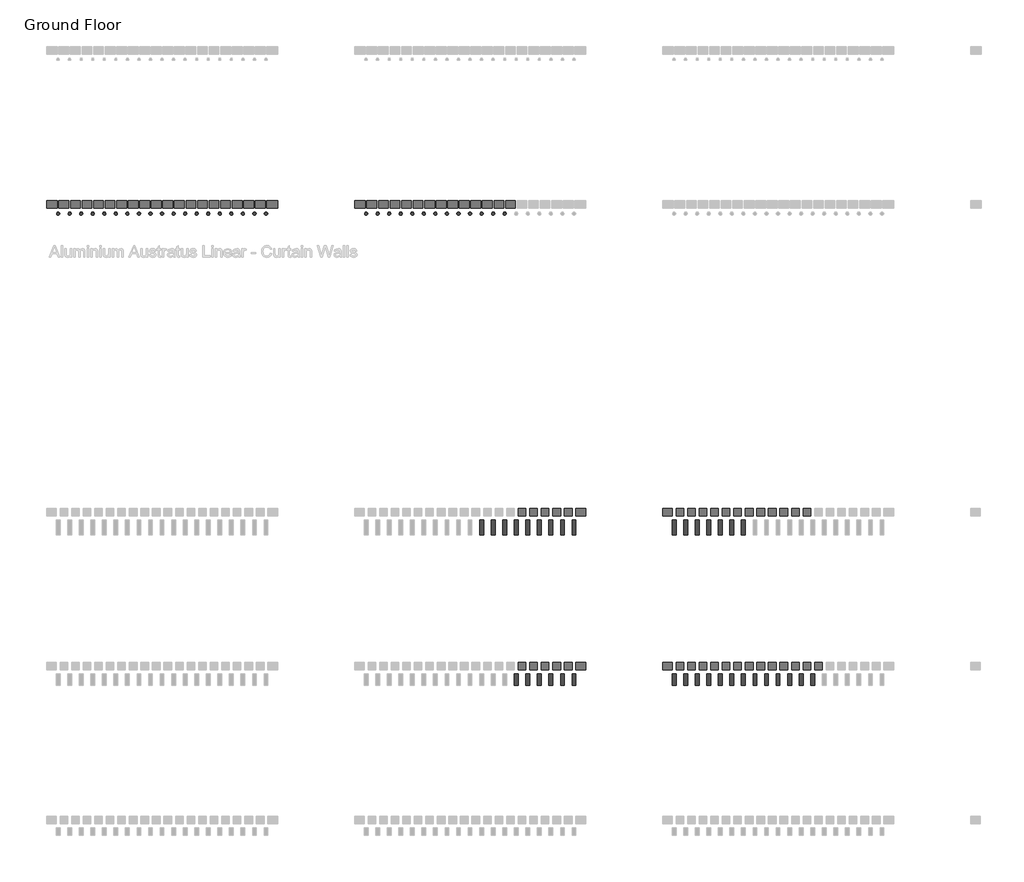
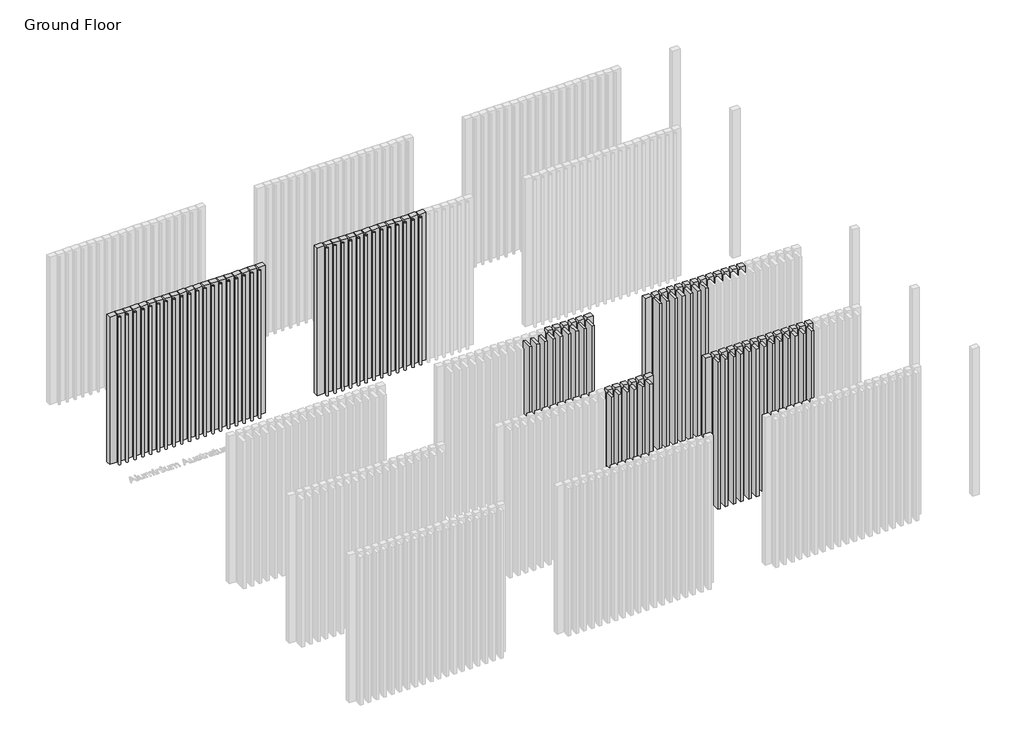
# One storey, part 16 of 350: 73 plates, 67 members.
"""IFC4 building model written with IfcOpenShell, lengths in millimetres."""

from ifc_helpers import new_model, si_unit, origin, place, context, project, spatial, transform, mapped, element, save
from components import rectangular_mullion_d8d867ca, rectangular_mullion_26362614, rectangular_mullion_afeb8ef8, empty_system_panel_empty_a8601f27, empty_system_panel_empty_23ba90fe, empty_system_panel_empty_02e968fa, empty_system_panel_empty_b0a57c37, empty_system_panel_empty_a9f5b765, empty_system_panel_empty_5da2f048

model = new_model("IFC4")

# Units and contexts
model_context = context("Model", 3, world=origin())
ifc_project = project(units=[si_unit("LENGTHUNIT", "METRE", prefix="MILLI")], contexts=[model_context])

# Site, building, storey
site = spatial("IfcSite", under=ifc_project)
building = spatial("IfcBuilding", under=site)
storey = spatial("IfcBuildingStorey", under=building, Name="Ground Floor", Elevation=0.0)

# Members
placement = place(None, origin())
rectangular_mullion_shape = rectangular_mullion_d8d867ca(model_context)
element("IfcMember", 1, ObjectType="Rectangular Mullion : Batten_Aluminium_Modinex_Austratus_Linear_Dowel_AfricanEbony", at=placement, inside=storey, context=model_context, shape_type="MappedRepresentation", body=[
    mapped(rectangular_mullion_shape, transform((2066.4361642, 30968.2978302, 0.0), x_axis=(1.0, 0.0, 0.0), y_axis=(0.0, -1.0, 0.0), z_axis=(0.0, 0.0, -1.0))),
])
element("IfcMember", 2, ObjectType="Rectangular Mullion : Batten_Aluminium_Modinex_Austratus_Linear_Dowel_AfricanEbony", at=placement, inside=storey, context=model_context, shape_type="MappedRepresentation", body=[
    mapped(rectangular_mullion_shape, transform((2216.4361642, 30968.2978302, 0.0), x_axis=(1.0, 0.0, 0.0), y_axis=(0.0, -1.0, 0.0), z_axis=(0.0, 0.0, -1.0))),
])
element("IfcMember", 3, ObjectType="Rectangular Mullion : Batten_Aluminium_Modinex_Austratus_Linear_Dowel_AfricanEbony", at=placement, inside=storey, context=model_context, shape_type="MappedRepresentation", body=[
    mapped(rectangular_mullion_shape, transform((2366.4361642, 30968.2978302, 0.0), x_axis=(1.0, 0.0, 0.0), y_axis=(0.0, -1.0, 0.0), z_axis=(0.0, 0.0, -1.0))),
])
element("IfcMember", 4, ObjectType="Rectangular Mullion : Batten_Aluminium_Modinex_Austratus_Linear_Dowel_AfricanEbony", at=placement, inside=storey, context=model_context, shape_type="MappedRepresentation", body=[
    mapped(rectangular_mullion_shape, transform((2516.4361642, 30968.2978302, 0.0), x_axis=(1.0, 0.0, 0.0), y_axis=(0.0, -1.0, 0.0), z_axis=(0.0, 0.0, -1.0))),
])
element("IfcMember", 5, ObjectType="Rectangular Mullion : Batten_Aluminium_Modinex_Austratus_Linear_Dowel_AfricanEbony", at=placement, inside=storey, context=model_context, shape_type="MappedRepresentation", body=[
    mapped(rectangular_mullion_shape, transform((2666.4361642, 30968.2978302, 0.0), x_axis=(1.0, 0.0, 0.0), y_axis=(0.0, -1.0, 0.0), z_axis=(0.0, 0.0, -1.0))),
])
element("IfcMember", 6, ObjectType="Rectangular Mullion : Batten_Aluminium_Modinex_Austratus_Linear_Dowel_AfricanEbony", at=placement, inside=storey, context=model_context, shape_type="MappedRepresentation", body=[
    mapped(rectangular_mullion_shape, transform((2816.4361642, 30968.2978302, 0.0), x_axis=(1.0, 0.0, 0.0), y_axis=(0.0, -1.0, 0.0), z_axis=(0.0, 0.0, -1.0))),
])
element("IfcMember", 7, ObjectType="Rectangular Mullion : Batten_Aluminium_Modinex_Austratus_Linear_Dowel_AfricanEbony", at=placement, inside=storey, context=model_context, shape_type="MappedRepresentation", body=[
    mapped(rectangular_mullion_shape, transform((2966.4361642, 30968.2978302, 0.0), x_axis=(1.0, 0.0, 0.0), y_axis=(0.0, -1.0, 0.0), z_axis=(0.0, 0.0, -1.0))),
])
element("IfcMember", 8, ObjectType="Rectangular Mullion : Batten_Aluminium_Modinex_Austratus_Linear_Dowel_AfricanEbony", at=placement, inside=storey, context=model_context, shape_type="MappedRepresentation", body=[
    mapped(rectangular_mullion_shape, transform((3116.4361642, 30968.2978302, 0.0), x_axis=(1.0, 0.0, 0.0), y_axis=(0.0, -1.0, 0.0), z_axis=(0.0, 0.0, -1.0))),
])
element("IfcMember", 9, ObjectType="Rectangular Mullion : Batten_Aluminium_Modinex_Austratus_Linear_Dowel_AfricanEbony", at=placement, inside=storey, context=model_context, shape_type="MappedRepresentation", body=[
    mapped(rectangular_mullion_shape, transform((3266.4361642, 30968.2978302, 0.0), x_axis=(1.0, 0.0, 0.0), y_axis=(0.0, -1.0, 0.0), z_axis=(0.0, 0.0, -1.0))),
])
element("IfcMember", 10, ObjectType="Rectangular Mullion : Batten_Aluminium_Modinex_Austratus_Linear_Dowel_AfricanEbony", at=placement, inside=storey, context=model_context, shape_type="MappedRepresentation", body=[
    mapped(rectangular_mullion_shape, transform((3416.4361642, 30968.2978302, 0.0), x_axis=(1.0, 0.0, 0.0), y_axis=(0.0, -1.0, 0.0), z_axis=(0.0, 0.0, -1.0))),
])
element("IfcMember", 11, ObjectType="Rectangular Mullion : Batten_Aluminium_Modinex_Austratus_Linear_Dowel_AfricanEbony", at=placement, inside=storey, context=model_context, shape_type="MappedRepresentation", body=[
    mapped(rectangular_mullion_shape, transform((3566.4361642, 30968.2978302, 0.0), x_axis=(1.0, 0.0, 0.0), y_axis=(0.0, -1.0, 0.0), z_axis=(0.0, 0.0, -1.0))),
])
element("IfcMember", 12, ObjectType="Rectangular Mullion : Batten_Aluminium_Modinex_Austratus_Linear_Dowel_AfricanEbony", at=placement, inside=storey, context=model_context, shape_type="MappedRepresentation", body=[
    mapped(rectangular_mullion_shape, transform((3716.4361642, 30968.2978302, 0.0), x_axis=(1.0, 0.0, 0.0), y_axis=(0.0, -1.0, 0.0), z_axis=(0.0, 0.0, -1.0))),
])
element("IfcMember", 13, ObjectType="Rectangular Mullion : Batten_Aluminium_Modinex_Austratus_Linear_Dowel_AfricanEbony", at=placement, inside=storey, context=model_context, shape_type="MappedRepresentation", body=[
    mapped(rectangular_mullion_shape, transform((3866.4361642, 30968.2978302, 0.0), x_axis=(1.0, 0.0, 0.0), y_axis=(0.0, -1.0, 0.0), z_axis=(0.0, 0.0, -1.0))),
])
element("IfcMember", 14, ObjectType="Rectangular Mullion : Batten_Aluminium_Modinex_Austratus_Linear_Dowel_AfricanEbony", at=placement, inside=storey, context=model_context, shape_type="MappedRepresentation", body=[
    mapped(rectangular_mullion_shape, transform((4016.4361642, 30968.2978302, 0.0), x_axis=(1.0, 0.0, 0.0), y_axis=(0.0, -1.0, 0.0), z_axis=(0.0, 0.0, -1.0))),
])
element("IfcMember", 15, ObjectType="Rectangular Mullion : Batten_Aluminium_Modinex_Austratus_Linear_Dowel_AfricanEbony", at=placement, inside=storey, context=model_context, shape_type="MappedRepresentation", body=[
    mapped(rectangular_mullion_shape, transform((4166.4361642, 30968.2978302, 0.0), x_axis=(1.0, 0.0, 0.0), y_axis=(0.0, -1.0, 0.0), z_axis=(0.0, 0.0, -1.0))),
])
element("IfcMember", 16, ObjectType="Rectangular Mullion : Batten_Aluminium_Modinex_Austratus_Linear_Dowel_AfricanEbony", at=placement, inside=storey, context=model_context, shape_type="MappedRepresentation", body=[
    mapped(rectangular_mullion_shape, transform((4316.4361642, 30968.2978302, 0.0), x_axis=(1.0, 0.0, 0.0), y_axis=(0.0, -1.0, 0.0), z_axis=(0.0, 0.0, -1.0))),
])
element("IfcMember", 17, ObjectType="Rectangular Mullion : Batten_Aluminium_Modinex_Austratus_Linear_Dowel_AfricanEbony", at=placement, inside=storey, context=model_context, shape_type="MappedRepresentation", body=[
    mapped(rectangular_mullion_shape, transform((4466.4361642, 30968.2978302, 0.0), x_axis=(1.0, 0.0, 0.0), y_axis=(0.0, -1.0, 0.0), z_axis=(0.0, 0.0, -1.0))),
])
element("IfcMember", 18, ObjectType="Rectangular Mullion : Batten_Aluminium_Modinex_Austratus_Linear_Dowel_AfricanEbony", at=placement, inside=storey, context=model_context, shape_type="MappedRepresentation", body=[
    mapped(rectangular_mullion_shape, transform((4616.4361642, 30968.2978302, 0.0), x_axis=(1.0, 0.0, 0.0), y_axis=(0.0, -1.0, 0.0), z_axis=(0.0, 0.0, -1.0))),
])
element("IfcMember", 19, ObjectType="Rectangular Mullion : Batten_Aluminium_Modinex_Austratus_Linear_Dowel_AfricanEbony", at=placement, inside=storey, context=model_context, shape_type="MappedRepresentation", body=[
    mapped(rectangular_mullion_shape, transform((4766.4361642, 30968.2978302, 0.0), x_axis=(1.0, 0.0, 0.0), y_axis=(0.0, -1.0, 0.0), z_axis=(0.0, 0.0, -1.0))),
])
rectangular_mullion_2_shape = rectangular_mullion_26362614(model_context)
element("IfcMember", 20, ObjectType="Rectangular Mullion : Batten_Aluminium_Modinex_AluBatten_50x150_Cedar", at=placement, inside=storey, context=model_context, shape_type="MappedRepresentation", body=[
    mapped(rectangular_mullion_2_shape, transform((8016.4361642, 24968.2978302, 0.0), x_axis=(1.0, 0.0, 0.0), y_axis=(0.0, -1.0, 0.0), z_axis=(0.0, 0.0, -1.0))),
])
element("IfcMember", 21, ObjectType="Rectangular Mullion : Batten_Aluminium_Modinex_AluBatten_50x150_Cedar", at=placement, inside=storey, context=model_context, shape_type="MappedRepresentation", body=[
    mapped(rectangular_mullion_2_shape, transform((8166.4361642, 24968.2978302, 0.0), x_axis=(1.0, 0.0, 0.0), y_axis=(0.0, -1.0, 0.0), z_axis=(0.0, 0.0, -1.0))),
])
element("IfcMember", 22, ObjectType="Rectangular Mullion : Batten_Aluminium_Modinex_AluBatten_50x150_Cedar", at=placement, inside=storey, context=model_context, shape_type="MappedRepresentation", body=[
    mapped(rectangular_mullion_2_shape, transform((8316.4361642, 24968.2978302, 0.0), x_axis=(1.0, 0.0, 0.0), y_axis=(0.0, -1.0, 0.0), z_axis=(0.0, 0.0, -1.0))),
])
element("IfcMember", 23, ObjectType="Rectangular Mullion : Batten_Aluminium_Modinex_AluBatten_50x150_Cedar", at=placement, inside=storey, context=model_context, shape_type="MappedRepresentation", body=[
    mapped(rectangular_mullion_2_shape, transform((8466.4361642, 24968.2978302, 0.0), x_axis=(1.0, 0.0, 0.0), y_axis=(0.0, -1.0, 0.0), z_axis=(0.0, 0.0, -1.0))),
])
element("IfcMember", 24, ObjectType="Rectangular Mullion : Batten_Aluminium_Modinex_AluBatten_50x150_Cedar", at=placement, inside=storey, context=model_context, shape_type="MappedRepresentation", body=[
    mapped(rectangular_mullion_2_shape, transform((8616.4361642, 24968.2978302, 0.0), x_axis=(1.0, 0.0, 0.0), y_axis=(0.0, -1.0, 0.0), z_axis=(0.0, 0.0, -1.0))),
])
element("IfcMember", 25, ObjectType="Rectangular Mullion : Batten_Aluminium_Modinex_AluBatten_50x150_Cedar", at=placement, inside=storey, context=model_context, shape_type="MappedRepresentation", body=[
    mapped(rectangular_mullion_2_shape, transform((8766.4361642, 24968.2978302, 0.0), x_axis=(1.0, 0.0, 0.0), y_axis=(0.0, -1.0, 0.0), z_axis=(0.0, 0.0, -1.0))),
])
element("IfcMember", 26, ObjectType="Rectangular Mullion : Batten_Aluminium_Modinex_AluBatten_50x150_EnglishOak", at=placement, inside=storey, context=model_context, shape_type="MappedRepresentation", body=[
    mapped(rectangular_mullion_2_shape, transform((10066.4361642, 24968.2978302, 0.0), x_axis=(1.0, 0.0, 0.0), y_axis=(0.0, -1.0, 0.0), z_axis=(0.0, 0.0, -1.0))),
])
element("IfcMember", 27, ObjectType="Rectangular Mullion : Batten_Aluminium_Modinex_AluBatten_50x150_EnglishOak", at=placement, inside=storey, context=model_context, shape_type="MappedRepresentation", body=[
    mapped(rectangular_mullion_2_shape, transform((10216.4361642, 24968.2978302, 0.0), x_axis=(1.0, 0.0, 0.0), y_axis=(0.0, -1.0, 0.0), z_axis=(0.0, 0.0, -1.0))),
])
element("IfcMember", 28, ObjectType="Rectangular Mullion : Batten_Aluminium_Modinex_AluBatten_50x150_EnglishOak", at=placement, inside=storey, context=model_context, shape_type="MappedRepresentation", body=[
    mapped(rectangular_mullion_2_shape, transform((10366.4361642, 24968.2978302, 0.0), x_axis=(1.0, 0.0, 0.0), y_axis=(0.0, -1.0, 0.0), z_axis=(0.0, 0.0, -1.0))),
])
element("IfcMember", 29, ObjectType="Rectangular Mullion : Batten_Aluminium_Modinex_AluBatten_50x150_EnglishOak", at=placement, inside=storey, context=model_context, shape_type="MappedRepresentation", body=[
    mapped(rectangular_mullion_2_shape, transform((10516.4361642, 24968.2978302, 0.0), x_axis=(1.0, 0.0, 0.0), y_axis=(0.0, -1.0, 0.0), z_axis=(0.0, 0.0, -1.0))),
])
element("IfcMember", 30, ObjectType="Rectangular Mullion : Batten_Aluminium_Modinex_AluBatten_50x150_EnglishOak", at=placement, inside=storey, context=model_context, shape_type="MappedRepresentation", body=[
    mapped(rectangular_mullion_2_shape, transform((10666.4361642, 24968.2978302, 0.0), x_axis=(1.0, 0.0, 0.0), y_axis=(0.0, -1.0, 0.0), z_axis=(0.0, 0.0, -1.0))),
])
element("IfcMember", 31, ObjectType="Rectangular Mullion : Batten_Aluminium_Modinex_AluBatten_50x150_EnglishOak", at=placement, inside=storey, context=model_context, shape_type="MappedRepresentation", body=[
    mapped(rectangular_mullion_2_shape, transform((10816.4361642, 24968.2978302, 0.0), x_axis=(1.0, 0.0, 0.0), y_axis=(0.0, -1.0, 0.0), z_axis=(0.0, 0.0, -1.0))),
])
element("IfcMember", 32, ObjectType="Rectangular Mullion : Batten_Aluminium_Modinex_AluBatten_50x150_EnglishOak", at=placement, inside=storey, context=model_context, shape_type="MappedRepresentation", body=[
    mapped(rectangular_mullion_2_shape, transform((10966.4361642, 24968.2978302, 0.0), x_axis=(1.0, 0.0, 0.0), y_axis=(0.0, -1.0, 0.0), z_axis=(0.0, 0.0, -1.0))),
])
element("IfcMember", 33, ObjectType="Rectangular Mullion : Batten_Aluminium_Modinex_AluBatten_50x150_EnglishOak", at=placement, inside=storey, context=model_context, shape_type="MappedRepresentation", body=[
    mapped(rectangular_mullion_2_shape, transform((11116.4361642, 24968.2978302, 0.0), x_axis=(1.0, 0.0, 0.0), y_axis=(0.0, -1.0, 0.0), z_axis=(0.0, 0.0, -1.0))),
])
element("IfcMember", 34, ObjectType="Rectangular Mullion : Batten_Aluminium_Modinex_AluBatten_50x150_EnglishOak", at=placement, inside=storey, context=model_context, shape_type="MappedRepresentation", body=[
    mapped(rectangular_mullion_2_shape, transform((11266.4361642, 24968.2978302, 0.0), x_axis=(1.0, 0.0, 0.0), y_axis=(0.0, -1.0, 0.0), z_axis=(0.0, 0.0, -1.0))),
])
element("IfcMember", 35, ObjectType="Rectangular Mullion : Batten_Aluminium_Modinex_AluBatten_50x150_EnglishOak", at=placement, inside=storey, context=model_context, shape_type="MappedRepresentation", body=[
    mapped(rectangular_mullion_2_shape, transform((11416.4361642, 24968.2978302, 0.0), x_axis=(1.0, 0.0, 0.0), y_axis=(0.0, -1.0, 0.0), z_axis=(0.0, 0.0, -1.0))),
])
element("IfcMember", 36, ObjectType="Rectangular Mullion : Batten_Aluminium_Modinex_AluBatten_50x150_EnglishOak", at=placement, inside=storey, context=model_context, shape_type="MappedRepresentation", body=[
    mapped(rectangular_mullion_2_shape, transform((11566.4361642, 24968.2978302, 0.0), x_axis=(1.0, 0.0, 0.0), y_axis=(0.0, -1.0, 0.0), z_axis=(0.0, 0.0, -1.0))),
])
element("IfcMember", 37, ObjectType="Rectangular Mullion : Batten_Aluminium_Modinex_AluBatten_50x150_EnglishOak", at=placement, inside=storey, context=model_context, shape_type="MappedRepresentation", body=[
    mapped(rectangular_mullion_2_shape, transform((11716.4361642, 24968.2978302, 0.0), x_axis=(1.0, 0.0, 0.0), y_axis=(0.0, -1.0, 0.0), z_axis=(0.0, 0.0, -1.0))),
])
element("IfcMember", 38, ObjectType="Rectangular Mullion : Batten_Aluminium_Modinex_AluBatten_50x150_EnglishOak", at=placement, inside=storey, context=model_context, shape_type="MappedRepresentation", body=[
    mapped(rectangular_mullion_2_shape, transform((11866.4361642, 24968.2978302, 0.0), x_axis=(1.0, 0.0, 0.0), y_axis=(0.0, -1.0, 0.0), z_axis=(0.0, 0.0, -1.0))),
])
rectangular_mullion_3_shape = rectangular_mullion_afeb8ef8(model_context)
element("IfcMember", 39, ObjectType="Rectangular Mullion : Batten_Aluminium_Modinex_AluBatten_50x200_Cedar", at=placement, inside=storey, context=model_context, shape_type="MappedRepresentation", body=[
    mapped(rectangular_mullion_3_shape, transform((7566.4361642, 26968.2978302, 0.0), x_axis=(1.0, 0.0, 0.0), y_axis=(0.0, -1.0, 0.0), z_axis=(0.0, 0.0, -1.0))),
])
element("IfcMember", 40, ObjectType="Rectangular Mullion : Batten_Aluminium_Modinex_AluBatten_50x200_Cedar", at=placement, inside=storey, context=model_context, shape_type="MappedRepresentation", body=[
    mapped(rectangular_mullion_3_shape, transform((7716.4361642, 26968.2978302, 0.0), x_axis=(1.0, 0.0, 0.0), y_axis=(0.0, -1.0, 0.0), z_axis=(0.0, 0.0, -1.0))),
])
element("IfcMember", 41, ObjectType="Rectangular Mullion : Batten_Aluminium_Modinex_AluBatten_50x200_Cedar", at=placement, inside=storey, context=model_context, shape_type="MappedRepresentation", body=[
    mapped(rectangular_mullion_3_shape, transform((7866.4361642, 26968.2978302, 0.0), x_axis=(1.0, 0.0, 0.0), y_axis=(0.0, -1.0, 0.0), z_axis=(0.0, 0.0, -1.0))),
])
element("IfcMember", 42, ObjectType="Rectangular Mullion : Batten_Aluminium_Modinex_AluBatten_50x200_Cedar", at=placement, inside=storey, context=model_context, shape_type="MappedRepresentation", body=[
    mapped(rectangular_mullion_3_shape, transform((8016.4361642, 26968.2978302, 0.0), x_axis=(1.0, 0.0, 0.0), y_axis=(0.0, -1.0, 0.0), z_axis=(0.0, 0.0, -1.0))),
])
element("IfcMember", 43, ObjectType="Rectangular Mullion : Batten_Aluminium_Modinex_AluBatten_50x200_Cedar", at=placement, inside=storey, context=model_context, shape_type="MappedRepresentation", body=[
    mapped(rectangular_mullion_3_shape, transform((8166.4361642, 26968.2978302, 0.0), x_axis=(1.0, 0.0, 0.0), y_axis=(0.0, -1.0, 0.0), z_axis=(0.0, 0.0, -1.0))),
])
element("IfcMember", 44, ObjectType="Rectangular Mullion : Batten_Aluminium_Modinex_AluBatten_50x200_Cedar", at=placement, inside=storey, context=model_context, shape_type="MappedRepresentation", body=[
    mapped(rectangular_mullion_3_shape, transform((8316.4361642, 26968.2978302, 0.0), x_axis=(1.0, 0.0, 0.0), y_axis=(0.0, -1.0, 0.0), z_axis=(0.0, 0.0, -1.0))),
])
element("IfcMember", 45, ObjectType="Rectangular Mullion : Batten_Aluminium_Modinex_AluBatten_50x200_Cedar", at=placement, inside=storey, context=model_context, shape_type="MappedRepresentation", body=[
    mapped(rectangular_mullion_3_shape, transform((8466.4361642, 26968.2978302, 0.0), x_axis=(1.0, 0.0, 0.0), y_axis=(0.0, -1.0, 0.0), z_axis=(0.0, 0.0, -1.0))),
])
element("IfcMember", 46, ObjectType="Rectangular Mullion : Batten_Aluminium_Modinex_AluBatten_50x200_Cedar", at=placement, inside=storey, context=model_context, shape_type="MappedRepresentation", body=[
    mapped(rectangular_mullion_3_shape, transform((8616.4361642, 26968.2978302, 0.0), x_axis=(1.0, 0.0, 0.0), y_axis=(0.0, -1.0, 0.0), z_axis=(0.0, 0.0, -1.0))),
])
element("IfcMember", 47, ObjectType="Rectangular Mullion : Batten_Aluminium_Modinex_AluBatten_50x200_Cedar", at=placement, inside=storey, context=model_context, shape_type="MappedRepresentation", body=[
    mapped(rectangular_mullion_3_shape, transform((8766.4361642, 26968.2978302, 0.0), x_axis=(1.0, 0.0, 0.0), y_axis=(0.0, -1.0, 0.0), z_axis=(0.0, 0.0, -1.0))),
])
element("IfcMember", 48, ObjectType="Rectangular Mullion : Batten_Aluminium_Modinex_AluBatten_50x200_EnglishOak", at=placement, inside=storey, context=model_context, shape_type="MappedRepresentation", body=[
    mapped(rectangular_mullion_3_shape, transform((10066.4361642, 26968.2978302, 0.0), x_axis=(1.0, 0.0, 0.0), y_axis=(0.0, -1.0, 0.0), z_axis=(0.0, 0.0, -1.0))),
])
element("IfcMember", 49, ObjectType="Rectangular Mullion : Batten_Aluminium_Modinex_AluBatten_50x200_EnglishOak", at=placement, inside=storey, context=model_context, shape_type="MappedRepresentation", body=[
    mapped(rectangular_mullion_3_shape, transform((10216.4361642, 26968.2978302, 0.0), x_axis=(1.0, 0.0, 0.0), y_axis=(0.0, -1.0, 0.0), z_axis=(0.0, 0.0, -1.0))),
])
element("IfcMember", 50, ObjectType="Rectangular Mullion : Batten_Aluminium_Modinex_AluBatten_50x200_EnglishOak", at=placement, inside=storey, context=model_context, shape_type="MappedRepresentation", body=[
    mapped(rectangular_mullion_3_shape, transform((10366.4361642, 26968.2978302, 0.0), x_axis=(1.0, 0.0, 0.0), y_axis=(0.0, -1.0, 0.0), z_axis=(0.0, 0.0, -1.0))),
])
element("IfcMember", 51, ObjectType="Rectangular Mullion : Batten_Aluminium_Modinex_AluBatten_50x200_EnglishOak", at=placement, inside=storey, context=model_context, shape_type="MappedRepresentation", body=[
    mapped(rectangular_mullion_3_shape, transform((10516.4361642, 26968.2978302, 0.0), x_axis=(1.0, 0.0, 0.0), y_axis=(0.0, -1.0, 0.0), z_axis=(0.0, 0.0, -1.0))),
])
element("IfcMember", 52, ObjectType="Rectangular Mullion : Batten_Aluminium_Modinex_AluBatten_50x200_EnglishOak", at=placement, inside=storey, context=model_context, shape_type="MappedRepresentation", body=[
    mapped(rectangular_mullion_3_shape, transform((10666.4361642, 26968.2978302, 0.0), x_axis=(1.0, 0.0, 0.0), y_axis=(0.0, -1.0, 0.0), z_axis=(0.0, 0.0, -1.0))),
])
element("IfcMember", 53, ObjectType="Rectangular Mullion : Batten_Aluminium_Modinex_AluBatten_50x200_EnglishOak", at=placement, inside=storey, context=model_context, shape_type="MappedRepresentation", body=[
    mapped(rectangular_mullion_3_shape, transform((10816.4361642, 26968.2978302, 0.0), x_axis=(1.0, 0.0, 0.0), y_axis=(0.0, -1.0, 0.0), z_axis=(0.0, 0.0, -1.0))),
])
element("IfcMember", 54, ObjectType="Rectangular Mullion : Batten_Aluminium_Modinex_AluBatten_50x200_EnglishOak", at=placement, inside=storey, context=model_context, shape_type="MappedRepresentation", body=[
    mapped(rectangular_mullion_3_shape, transform((10966.4361642, 26968.2978302, 0.0), x_axis=(1.0, 0.0, 0.0), y_axis=(0.0, -1.0, 0.0), z_axis=(0.0, 0.0, -1.0))),
])
element("IfcMember", 55, ObjectType="Rectangular Mullion : Batten_Aluminium_Modinex_Austratus_Linear_Dowel_Cedar", at=placement, inside=storey, context=model_context, shape_type="MappedRepresentation", body=[
    mapped(rectangular_mullion_shape, transform((6066.4361642, 30968.2978302, 0.0), x_axis=(1.0, 0.0, 0.0), y_axis=(0.0, -1.0, 0.0), z_axis=(0.0, 0.0, -1.0))),
])
element("IfcMember", 56, ObjectType="Rectangular Mullion : Batten_Aluminium_Modinex_Austratus_Linear_Dowel_Cedar", at=placement, inside=storey, context=model_context, shape_type="MappedRepresentation", body=[
    mapped(rectangular_mullion_shape, transform((6216.4361642, 30968.2978302, 0.0), x_axis=(1.0, 0.0, 0.0), y_axis=(0.0, -1.0, 0.0), z_axis=(0.0, 0.0, -1.0))),
])
element("IfcMember", 57, ObjectType="Rectangular Mullion : Batten_Aluminium_Modinex_Austratus_Linear_Dowel_Cedar", at=placement, inside=storey, context=model_context, shape_type="MappedRepresentation", body=[
    mapped(rectangular_mullion_shape, transform((6366.4361642, 30968.2978302, 0.0), x_axis=(1.0, 0.0, 0.0), y_axis=(0.0, -1.0, 0.0), z_axis=(0.0, 0.0, -1.0))),
])
element("IfcMember", 58, ObjectType="Rectangular Mullion : Batten_Aluminium_Modinex_Austratus_Linear_Dowel_Cedar", at=placement, inside=storey, context=model_context, shape_type="MappedRepresentation", body=[
    mapped(rectangular_mullion_shape, transform((6516.4361642, 30968.2978302, 0.0), x_axis=(1.0, 0.0, 0.0), y_axis=(0.0, -1.0, 0.0), z_axis=(0.0, 0.0, -1.0))),
])
element("IfcMember", 59, ObjectType="Rectangular Mullion : Batten_Aluminium_Modinex_Austratus_Linear_Dowel_Cedar", at=placement, inside=storey, context=model_context, shape_type="MappedRepresentation", body=[
    mapped(rectangular_mullion_shape, transform((6666.4361642, 30968.2978302, 0.0), x_axis=(1.0, 0.0, 0.0), y_axis=(0.0, -1.0, 0.0), z_axis=(0.0, 0.0, -1.0))),
])
element("IfcMember", 60, ObjectType="Rectangular Mullion : Batten_Aluminium_Modinex_Austratus_Linear_Dowel_Cedar", at=placement, inside=storey, context=model_context, shape_type="MappedRepresentation", body=[
    mapped(rectangular_mullion_shape, transform((6816.4361642, 30968.2978302, 0.0), x_axis=(1.0, 0.0, 0.0), y_axis=(0.0, -1.0, 0.0), z_axis=(0.0, 0.0, -1.0))),
])
element("IfcMember", 61, ObjectType="Rectangular Mullion : Batten_Aluminium_Modinex_Austratus_Linear_Dowel_Cedar", at=placement, inside=storey, context=model_context, shape_type="MappedRepresentation", body=[
    mapped(rectangular_mullion_shape, transform((6966.4361642, 30968.2978302, 0.0), x_axis=(1.0, 0.0, 0.0), y_axis=(0.0, -1.0, 0.0), z_axis=(0.0, 0.0, -1.0))),
])
element("IfcMember", 62, ObjectType="Rectangular Mullion : Batten_Aluminium_Modinex_Austratus_Linear_Dowel_Cedar", at=placement, inside=storey, context=model_context, shape_type="MappedRepresentation", body=[
    mapped(rectangular_mullion_shape, transform((7116.4361642, 30968.2978302, 0.0), x_axis=(1.0, 0.0, 0.0), y_axis=(0.0, -1.0, 0.0), z_axis=(0.0, 0.0, -1.0))),
])
element("IfcMember", 63, ObjectType="Rectangular Mullion : Batten_Aluminium_Modinex_Austratus_Linear_Dowel_Cedar", at=placement, inside=storey, context=model_context, shape_type="MappedRepresentation", body=[
    mapped(rectangular_mullion_shape, transform((7266.4361642, 30968.2978302, 0.0), x_axis=(1.0, 0.0, 0.0), y_axis=(0.0, -1.0, 0.0), z_axis=(0.0, 0.0, -1.0))),
])
element("IfcMember", 64, ObjectType="Rectangular Mullion : Batten_Aluminium_Modinex_Austratus_Linear_Dowel_Cedar", at=placement, inside=storey, context=model_context, shape_type="MappedRepresentation", body=[
    mapped(rectangular_mullion_shape, transform((7416.4361642, 30968.2978302, 0.0), x_axis=(1.0, 0.0, 0.0), y_axis=(0.0, -1.0, 0.0), z_axis=(0.0, 0.0, -1.0))),
])
element("IfcMember", 65, ObjectType="Rectangular Mullion : Batten_Aluminium_Modinex_Austratus_Linear_Dowel_Cedar", at=placement, inside=storey, context=model_context, shape_type="MappedRepresentation", body=[
    mapped(rectangular_mullion_shape, transform((7566.4361642, 30968.2978302, 0.0), x_axis=(1.0, 0.0, 0.0), y_axis=(0.0, -1.0, 0.0), z_axis=(0.0, 0.0, -1.0))),
])
element("IfcMember", 66, ObjectType="Rectangular Mullion : Batten_Aluminium_Modinex_Austratus_Linear_Dowel_Cedar", at=placement, inside=storey, context=model_context, shape_type="MappedRepresentation", body=[
    mapped(rectangular_mullion_shape, transform((7716.4361642, 30968.2978302, 0.0), x_axis=(1.0, 0.0, 0.0), y_axis=(0.0, -1.0, 0.0), z_axis=(0.0, 0.0, -1.0))),
])
element("IfcMember", 67, ObjectType="Rectangular Mullion : Batten_Aluminium_Modinex_Austratus_Linear_Dowel_Cedar", at=placement, inside=storey, context=model_context, shape_type="MappedRepresentation", body=[
    mapped(rectangular_mullion_shape, transform((7866.4361642, 30968.2978302, 0.0), x_axis=(1.0, 0.0, 0.0), y_axis=(0.0, -1.0, 0.0), z_axis=(0.0, 0.0, -1.0))),
])

# Plates
empty_system_panel_empty_shape = empty_system_panel_empty_a8601f27(model_context)
element("IfcPlate", 68, ObjectType="Empty System Panel : Empty", at=placement, inside=storey, context=model_context, shape_type="MappedRepresentation", body=[
    mapped(empty_system_panel_empty_shape, transform((9978.9361641, 24968.2978302, 0.0), x_axis=(1.0, 0.0, 0.0), y_axis=(0.0, 1.0, 0.0), z_axis=(0.0, 0.0, 1.0))),
])
element("IfcPlate", 69, ObjectType="Empty System Panel : Empty", at=placement, inside=storey, context=model_context, shape_type="MappedRepresentation", body=[
    mapped(empty_system_panel_empty_shape, transform((9978.9361641, 26968.2978302, 0.0), x_axis=(1.0, 0.0, 0.0), y_axis=(0.0, 1.0, 0.0), z_axis=(0.0, 0.0, 1.0))),
])
empty_system_panel_empty_2_shape = empty_system_panel_empty_23ba90fe(model_context)
element("IfcPlate", 70, ObjectType="Empty System Panel : Empty", at=placement, inside=storey, context=model_context, shape_type="MappedRepresentation", body=[
    mapped(empty_system_panel_empty_2_shape, transform((8091.4361642, 24968.2978302, 0.0), x_axis=(1.0, 0.0, 0.0), y_axis=(0.0, 1.0, 0.0), z_axis=(0.0, 0.0, 1.0))),
])
element("IfcPlate", 71, ObjectType="Empty System Panel : Empty", at=placement, inside=storey, context=model_context, shape_type="MappedRepresentation", body=[
    mapped(empty_system_panel_empty_2_shape, transform((8241.4361642, 24968.2978302, 0.0), x_axis=(1.0, 0.0, 0.0), y_axis=(0.0, 1.0, 0.0), z_axis=(0.0, 0.0, 1.0))),
])
element("IfcPlate", 72, ObjectType="Empty System Panel : Empty", at=placement, inside=storey, context=model_context, shape_type="MappedRepresentation", body=[
    mapped(empty_system_panel_empty_2_shape, transform((8391.4361642, 24968.2978302, 0.0), x_axis=(1.0, 0.0, 0.0), y_axis=(0.0, 1.0, 0.0), z_axis=(0.0, 0.0, 1.0))),
])
element("IfcPlate", 73, ObjectType="Empty System Panel : Empty", at=placement, inside=storey, context=model_context, shape_type="MappedRepresentation", body=[
    mapped(empty_system_panel_empty_2_shape, transform((8541.4361642, 24968.2978302, 0.0), x_axis=(1.0, 0.0, 0.0), y_axis=(0.0, 1.0, 0.0), z_axis=(0.0, 0.0, 1.0))),
])
element("IfcPlate", 74, ObjectType="Empty System Panel : Empty", at=placement, inside=storey, context=model_context, shape_type="MappedRepresentation", body=[
    mapped(empty_system_panel_empty_2_shape, transform((8691.4361642, 24968.2978302, 0.0), x_axis=(1.0, 0.0, 0.0), y_axis=(0.0, 1.0, 0.0), z_axis=(0.0, 0.0, 1.0))),
])
element("IfcPlate", 75, ObjectType="Empty System Panel : Empty", at=placement, inside=storey, context=model_context, shape_type="MappedRepresentation", body=[
    mapped(empty_system_panel_empty_2_shape, transform((10141.4361642, 24968.2978302, 0.0), x_axis=(1.0, 0.0, 0.0), y_axis=(0.0, 1.0, 0.0), z_axis=(0.0, 0.0, 1.0))),
])
element("IfcPlate", 76, ObjectType="Empty System Panel : Empty", at=placement, inside=storey, context=model_context, shape_type="MappedRepresentation", body=[
    mapped(empty_system_panel_empty_2_shape, transform((10291.4361642, 24968.2978302, 0.0), x_axis=(1.0, 0.0, 0.0), y_axis=(0.0, 1.0, 0.0), z_axis=(0.0, 0.0, 1.0))),
])
element("IfcPlate", 77, ObjectType="Empty System Panel : Empty", at=placement, inside=storey, context=model_context, shape_type="MappedRepresentation", body=[
    mapped(empty_system_panel_empty_2_shape, transform((10441.4361642, 24968.2978302, 0.0), x_axis=(1.0, 0.0, 0.0), y_axis=(0.0, 1.0, 0.0), z_axis=(0.0, 0.0, 1.0))),
])
element("IfcPlate", 78, ObjectType="Empty System Panel : Empty", at=placement, inside=storey, context=model_context, shape_type="MappedRepresentation", body=[
    mapped(empty_system_panel_empty_2_shape, transform((10591.4361642, 24968.2978302, 0.0), x_axis=(1.0, 0.0, 0.0), y_axis=(0.0, 1.0, 0.0), z_axis=(0.0, 0.0, 1.0))),
])
element("IfcPlate", 79, ObjectType="Empty System Panel : Empty", at=placement, inside=storey, context=model_context, shape_type="MappedRepresentation", body=[
    mapped(empty_system_panel_empty_2_shape, transform((10741.4361642, 24968.2978302, 0.0), x_axis=(1.0, 0.0, 0.0), y_axis=(0.0, 1.0, 0.0), z_axis=(0.0, 0.0, 1.0))),
])
element("IfcPlate", 80, ObjectType="Empty System Panel : Empty", at=placement, inside=storey, context=model_context, shape_type="MappedRepresentation", body=[
    mapped(empty_system_panel_empty_2_shape, transform((10891.4361642, 24968.2978302, 0.0), x_axis=(1.0, 0.0, 0.0), y_axis=(0.0, 1.0, 0.0), z_axis=(0.0, 0.0, 1.0))),
])
element("IfcPlate", 81, ObjectType="Empty System Panel : Empty", at=placement, inside=storey, context=model_context, shape_type="MappedRepresentation", body=[
    mapped(empty_system_panel_empty_2_shape, transform((11041.4361642, 24968.2978302, 0.0), x_axis=(1.0, 0.0, 0.0), y_axis=(0.0, 1.0, 0.0), z_axis=(0.0, 0.0, 1.0))),
])
element("IfcPlate", 82, ObjectType="Empty System Panel : Empty", at=placement, inside=storey, context=model_context, shape_type="MappedRepresentation", body=[
    mapped(empty_system_panel_empty_2_shape, transform((11191.4361642, 24968.2978302, 0.0), x_axis=(1.0, 0.0, 0.0), y_axis=(0.0, 1.0, 0.0), z_axis=(0.0, 0.0, 1.0))),
])
element("IfcPlate", 83, ObjectType="Empty System Panel : Empty", at=placement, inside=storey, context=model_context, shape_type="MappedRepresentation", body=[
    mapped(empty_system_panel_empty_2_shape, transform((11341.4361642, 24968.2978302, 0.0), x_axis=(1.0, 0.0, 0.0), y_axis=(0.0, 1.0, 0.0), z_axis=(0.0, 0.0, 1.0))),
])
element("IfcPlate", 84, ObjectType="Empty System Panel : Empty", at=placement, inside=storey, context=model_context, shape_type="MappedRepresentation", body=[
    mapped(empty_system_panel_empty_2_shape, transform((11491.4361642, 24968.2978302, 0.0), x_axis=(1.0, 0.0, 0.0), y_axis=(0.0, 1.0, 0.0), z_axis=(0.0, 0.0, 1.0))),
])
element("IfcPlate", 85, ObjectType="Empty System Panel : Empty", at=placement, inside=storey, context=model_context, shape_type="MappedRepresentation", body=[
    mapped(empty_system_panel_empty_2_shape, transform((11641.4361642, 24968.2978302, 0.0), x_axis=(1.0, 0.0, 0.0), y_axis=(0.0, 1.0, 0.0), z_axis=(0.0, 0.0, 1.0))),
])
element("IfcPlate", 86, ObjectType="Empty System Panel : Empty", at=placement, inside=storey, context=model_context, shape_type="MappedRepresentation", body=[
    mapped(empty_system_panel_empty_2_shape, transform((11791.4361642, 24968.2978302, 0.0), x_axis=(1.0, 0.0, 0.0), y_axis=(0.0, 1.0, 0.0), z_axis=(0.0, 0.0, 1.0))),
])
element("IfcPlate", 87, ObjectType="Empty System Panel : Empty", at=placement, inside=storey, context=model_context, shape_type="MappedRepresentation", body=[
    mapped(empty_system_panel_empty_2_shape, transform((11941.4361642, 24968.2978302, 0.0), x_axis=(1.0, 0.0, 0.0), y_axis=(0.0, 1.0, 0.0), z_axis=(0.0, 0.0, 1.0))),
])
element("IfcPlate", 88, ObjectType="Empty System Panel : Empty", at=placement, inside=storey, context=model_context, shape_type="MappedRepresentation", body=[
    mapped(empty_system_panel_empty_2_shape, transform((8091.4361642, 26968.2978302, 0.0), x_axis=(1.0, 0.0, 0.0), y_axis=(0.0, 1.0, 0.0), z_axis=(0.0, 0.0, 1.0))),
])
element("IfcPlate", 89, ObjectType="Empty System Panel : Empty", at=placement, inside=storey, context=model_context, shape_type="MappedRepresentation", body=[
    mapped(empty_system_panel_empty_2_shape, transform((8241.4361642, 26968.2978302, 0.0), x_axis=(1.0, 0.0, 0.0), y_axis=(0.0, 1.0, 0.0), z_axis=(0.0, 0.0, 1.0))),
])
element("IfcPlate", 90, ObjectType="Empty System Panel : Empty", at=placement, inside=storey, context=model_context, shape_type="MappedRepresentation", body=[
    mapped(empty_system_panel_empty_2_shape, transform((8391.4361642, 26968.2978302, 0.0), x_axis=(1.0, 0.0, 0.0), y_axis=(0.0, 1.0, 0.0), z_axis=(0.0, 0.0, 1.0))),
])
element("IfcPlate", 91, ObjectType="Empty System Panel : Empty", at=placement, inside=storey, context=model_context, shape_type="MappedRepresentation", body=[
    mapped(empty_system_panel_empty_2_shape, transform((8541.4361642, 26968.2978302, 0.0), x_axis=(1.0, 0.0, 0.0), y_axis=(0.0, 1.0, 0.0), z_axis=(0.0, 0.0, 1.0))),
])
element("IfcPlate", 92, ObjectType="Empty System Panel : Empty", at=placement, inside=storey, context=model_context, shape_type="MappedRepresentation", body=[
    mapped(empty_system_panel_empty_2_shape, transform((8691.4361642, 26968.2978302, 0.0), x_axis=(1.0, 0.0, 0.0), y_axis=(0.0, 1.0, 0.0), z_axis=(0.0, 0.0, 1.0))),
])
element("IfcPlate", 93, ObjectType="Empty System Panel : Empty", at=placement, inside=storey, context=model_context, shape_type="MappedRepresentation", body=[
    mapped(empty_system_panel_empty_2_shape, transform((10141.4361642, 26968.2978302, 0.0), x_axis=(1.0, 0.0, 0.0), y_axis=(0.0, 1.0, 0.0), z_axis=(0.0, 0.0, 1.0))),
])
element("IfcPlate", 94, ObjectType="Empty System Panel : Empty", at=placement, inside=storey, context=model_context, shape_type="MappedRepresentation", body=[
    mapped(empty_system_panel_empty_2_shape, transform((10291.4361642, 26968.2978302, 0.0), x_axis=(1.0, 0.0, 0.0), y_axis=(0.0, 1.0, 0.0), z_axis=(0.0, 0.0, 1.0))),
])
element("IfcPlate", 95, ObjectType="Empty System Panel : Empty", at=placement, inside=storey, context=model_context, shape_type="MappedRepresentation", body=[
    mapped(empty_system_panel_empty_2_shape, transform((10441.4361642, 26968.2978302, 0.0), x_axis=(1.0, 0.0, 0.0), y_axis=(0.0, 1.0, 0.0), z_axis=(0.0, 0.0, 1.0))),
])
element("IfcPlate", 96, ObjectType="Empty System Panel : Empty", at=placement, inside=storey, context=model_context, shape_type="MappedRepresentation", body=[
    mapped(empty_system_panel_empty_2_shape, transform((10591.4361642, 26968.2978302, 0.0), x_axis=(1.0, 0.0, 0.0), y_axis=(0.0, 1.0, 0.0), z_axis=(0.0, 0.0, 1.0))),
])
element("IfcPlate", 97, ObjectType="Empty System Panel : Empty", at=placement, inside=storey, context=model_context, shape_type="MappedRepresentation", body=[
    mapped(empty_system_panel_empty_2_shape, transform((10741.4361642, 26968.2978302, 0.0), x_axis=(1.0, 0.0, 0.0), y_axis=(0.0, 1.0, 0.0), z_axis=(0.0, 0.0, 1.0))),
])
element("IfcPlate", 98, ObjectType="Empty System Panel : Empty", at=placement, inside=storey, context=model_context, shape_type="MappedRepresentation", body=[
    mapped(empty_system_panel_empty_2_shape, transform((10891.4361642, 26968.2978302, 0.0), x_axis=(1.0, 0.0, 0.0), y_axis=(0.0, 1.0, 0.0), z_axis=(0.0, 0.0, 1.0))),
])
element("IfcPlate", 99, ObjectType="Empty System Panel : Empty", at=placement, inside=storey, context=model_context, shape_type="MappedRepresentation", body=[
    mapped(empty_system_panel_empty_2_shape, transform((11041.4361642, 26968.2978302, 0.0), x_axis=(1.0, 0.0, 0.0), y_axis=(0.0, 1.0, 0.0), z_axis=(0.0, 0.0, 1.0))),
])
element("IfcPlate", 100, ObjectType="Empty System Panel : Empty", at=placement, inside=storey, context=model_context, shape_type="MappedRepresentation", body=[
    mapped(empty_system_panel_empty_2_shape, transform((11191.4361642, 26968.2978302, 0.0), x_axis=(1.0, 0.0, 0.0), y_axis=(0.0, 1.0, 0.0), z_axis=(0.0, 0.0, 1.0))),
])
element("IfcPlate", 101, ObjectType="Empty System Panel : Empty", at=placement, inside=storey, context=model_context, shape_type="MappedRepresentation", body=[
    mapped(empty_system_panel_empty_2_shape, transform((11341.4361642, 26968.2978302, 0.0), x_axis=(1.0, 0.0, 0.0), y_axis=(0.0, 1.0, 0.0), z_axis=(0.0, 0.0, 1.0))),
])
element("IfcPlate", 102, ObjectType="Empty System Panel : Empty", at=placement, inside=storey, context=model_context, shape_type="MappedRepresentation", body=[
    mapped(empty_system_panel_empty_2_shape, transform((11491.4361642, 26968.2978302, 0.0), x_axis=(1.0, 0.0, 0.0), y_axis=(0.0, 1.0, 0.0), z_axis=(0.0, 0.0, 1.0))),
])
element("IfcPlate", 103, ObjectType="Empty System Panel : Empty", at=placement, inside=storey, context=model_context, shape_type="MappedRepresentation", body=[
    mapped(empty_system_panel_empty_2_shape, transform((11641.4361642, 26968.2978302, 0.0), x_axis=(1.0, 0.0, 0.0), y_axis=(0.0, 1.0, 0.0), z_axis=(0.0, 0.0, 1.0))),
])
element("IfcPlate", 104, ObjectType="Empty System Panel : Empty", at=placement, inside=storey, context=model_context, shape_type="MappedRepresentation", body=[
    mapped(empty_system_panel_empty_2_shape, transform((11791.4361642, 26968.2978302, 0.0), x_axis=(1.0, 0.0, 0.0), y_axis=(0.0, 1.0, 0.0), z_axis=(0.0, 0.0, 1.0))),
])
empty_system_panel_empty_3_shape = empty_system_panel_empty_02e968fa(model_context)
element("IfcPlate", 105, ObjectType="Empty System Panel : Empty", at=placement, inside=storey, context=model_context, shape_type="MappedRepresentation", body=[
    mapped(empty_system_panel_empty_3_shape, transform((8853.9361641, 24968.2978302, 0.0), x_axis=(1.0, 0.0, 0.0), y_axis=(0.0, 1.0, 0.0), z_axis=(0.0, 0.0, 1.0))),
])
element("IfcPlate", 106, ObjectType="Empty System Panel : Empty", at=placement, inside=storey, context=model_context, shape_type="MappedRepresentation", body=[
    mapped(empty_system_panel_empty_3_shape, transform((8853.9361641, 26968.2978302, 0.0), x_axis=(1.0, 0.0, 0.0), y_axis=(0.0, 1.0, 0.0), z_axis=(0.0, 0.0, 1.0))),
])
empty_system_panel_empty_4_shape = empty_system_panel_empty_b0a57c37(model_context)
element("IfcPlate", 107, ObjectType="Empty System Panel : Empty", at=placement, inside=storey, context=model_context, shape_type="MappedRepresentation", body=[
    mapped(empty_system_panel_empty_4_shape, transform((1985.6861641, 30968.2978302, 0.0), x_axis=(1.0, 0.0, 0.0), y_axis=(0.0, 1.0, 0.0), z_axis=(0.0, 0.0, 1.0))),
])
element("IfcPlate", 108, ObjectType="Empty System Panel : Empty", at=placement, inside=storey, context=model_context, shape_type="MappedRepresentation", body=[
    mapped(empty_system_panel_empty_4_shape, transform((5985.6861641, 30968.2978302, 0.0), x_axis=(1.0, 0.0, 0.0), y_axis=(0.0, 1.0, 0.0), z_axis=(0.0, 0.0, 1.0))),
])
empty_system_panel_empty_5_shape = empty_system_panel_empty_a9f5b765(model_context)
element("IfcPlate", 109, ObjectType="Empty System Panel : Empty", at=placement, inside=storey, context=model_context, shape_type="MappedRepresentation", body=[
    mapped(empty_system_panel_empty_5_shape, transform((2141.4361642, 30968.2978302, 0.0), x_axis=(1.0, 0.0, 0.0), y_axis=(0.0, 1.0, 0.0), z_axis=(0.0, 0.0, 1.0))),
])
element("IfcPlate", 110, ObjectType="Empty System Panel : Empty", at=placement, inside=storey, context=model_context, shape_type="MappedRepresentation", body=[
    mapped(empty_system_panel_empty_5_shape, transform((2291.4361642, 30968.2978302, 0.0), x_axis=(1.0, 0.0, 0.0), y_axis=(0.0, 1.0, 0.0), z_axis=(0.0, 0.0, 1.0))),
])
element("IfcPlate", 111, ObjectType="Empty System Panel : Empty", at=placement, inside=storey, context=model_context, shape_type="MappedRepresentation", body=[
    mapped(empty_system_panel_empty_5_shape, transform((2441.4361642, 30968.2978302, 0.0), x_axis=(1.0, 0.0, 0.0), y_axis=(0.0, 1.0, 0.0), z_axis=(0.0, 0.0, 1.0))),
])
element("IfcPlate", 112, ObjectType="Empty System Panel : Empty", at=placement, inside=storey, context=model_context, shape_type="MappedRepresentation", body=[
    mapped(empty_system_panel_empty_5_shape, transform((2591.4361642, 30968.2978302, 0.0), x_axis=(1.0, 0.0, 0.0), y_axis=(0.0, 1.0, 0.0), z_axis=(0.0, 0.0, 1.0))),
])
element("IfcPlate", 113, ObjectType="Empty System Panel : Empty", at=placement, inside=storey, context=model_context, shape_type="MappedRepresentation", body=[
    mapped(empty_system_panel_empty_5_shape, transform((2741.4361642, 30968.2978302, 0.0), x_axis=(1.0, 0.0, 0.0), y_axis=(0.0, 1.0, 0.0), z_axis=(0.0, 0.0, 1.0))),
])
element("IfcPlate", 114, ObjectType="Empty System Panel : Empty", at=placement, inside=storey, context=model_context, shape_type="MappedRepresentation", body=[
    mapped(empty_system_panel_empty_5_shape, transform((2891.4361642, 30968.2978302, 0.0), x_axis=(1.0, 0.0, 0.0), y_axis=(0.0, 1.0, 0.0), z_axis=(0.0, 0.0, 1.0))),
])
element("IfcPlate", 115, ObjectType="Empty System Panel : Empty", at=placement, inside=storey, context=model_context, shape_type="MappedRepresentation", body=[
    mapped(empty_system_panel_empty_5_shape, transform((3041.4361642, 30968.2978302, 0.0), x_axis=(1.0, 0.0, 0.0), y_axis=(0.0, 1.0, 0.0), z_axis=(0.0, 0.0, 1.0))),
])
element("IfcPlate", 116, ObjectType="Empty System Panel : Empty", at=placement, inside=storey, context=model_context, shape_type="MappedRepresentation", body=[
    mapped(empty_system_panel_empty_5_shape, transform((3191.4361642, 30968.2978302, 0.0), x_axis=(1.0, 0.0, 0.0), y_axis=(0.0, 1.0, 0.0), z_axis=(0.0, 0.0, 1.0))),
])
element("IfcPlate", 117, ObjectType="Empty System Panel : Empty", at=placement, inside=storey, context=model_context, shape_type="MappedRepresentation", body=[
    mapped(empty_system_panel_empty_5_shape, transform((3341.4361642, 30968.2978302, 0.0), x_axis=(1.0, 0.0, 0.0), y_axis=(0.0, 1.0, 0.0), z_axis=(0.0, 0.0, 1.0))),
])
element("IfcPlate", 118, ObjectType="Empty System Panel : Empty", at=placement, inside=storey, context=model_context, shape_type="MappedRepresentation", body=[
    mapped(empty_system_panel_empty_5_shape, transform((3491.4361642, 30968.2978302, 0.0), x_axis=(1.0, 0.0, 0.0), y_axis=(0.0, 1.0, 0.0), z_axis=(0.0, 0.0, 1.0))),
])
element("IfcPlate", 119, ObjectType="Empty System Panel : Empty", at=placement, inside=storey, context=model_context, shape_type="MappedRepresentation", body=[
    mapped(empty_system_panel_empty_5_shape, transform((3641.4361642, 30968.2978302, 0.0), x_axis=(1.0, 0.0, 0.0), y_axis=(0.0, 1.0, 0.0), z_axis=(0.0, 0.0, 1.0))),
])
element("IfcPlate", 120, ObjectType="Empty System Panel : Empty", at=placement, inside=storey, context=model_context, shape_type="MappedRepresentation", body=[
    mapped(empty_system_panel_empty_5_shape, transform((3791.4361642, 30968.2978302, 0.0), x_axis=(1.0, 0.0, 0.0), y_axis=(0.0, 1.0, 0.0), z_axis=(0.0, 0.0, 1.0))),
])
element("IfcPlate", 121, ObjectType="Empty System Panel : Empty", at=placement, inside=storey, context=model_context, shape_type="MappedRepresentation", body=[
    mapped(empty_system_panel_empty_5_shape, transform((3941.4361642, 30968.2978302, 0.0), x_axis=(1.0, 0.0, 0.0), y_axis=(0.0, 1.0, 0.0), z_axis=(0.0, 0.0, 1.0))),
])
element("IfcPlate", 122, ObjectType="Empty System Panel : Empty", at=placement, inside=storey, context=model_context, shape_type="MappedRepresentation", body=[
    mapped(empty_system_panel_empty_5_shape, transform((4091.4361642, 30968.2978302, 0.0), x_axis=(1.0, 0.0, 0.0), y_axis=(0.0, 1.0, 0.0), z_axis=(0.0, 0.0, 1.0))),
])
element("IfcPlate", 123, ObjectType="Empty System Panel : Empty", at=placement, inside=storey, context=model_context, shape_type="MappedRepresentation", body=[
    mapped(empty_system_panel_empty_5_shape, transform((4241.4361642, 30968.2978302, 0.0), x_axis=(1.0, 0.0, 0.0), y_axis=(0.0, 1.0, 0.0), z_axis=(0.0, 0.0, 1.0))),
])
element("IfcPlate", 124, ObjectType="Empty System Panel : Empty", at=placement, inside=storey, context=model_context, shape_type="MappedRepresentation", body=[
    mapped(empty_system_panel_empty_5_shape, transform((4391.4361642, 30968.2978302, 0.0), x_axis=(1.0, 0.0, 0.0), y_axis=(0.0, 1.0, 0.0), z_axis=(0.0, 0.0, 1.0))),
])
element("IfcPlate", 125, ObjectType="Empty System Panel : Empty", at=placement, inside=storey, context=model_context, shape_type="MappedRepresentation", body=[
    mapped(empty_system_panel_empty_5_shape, transform((4541.4361642, 30968.2978302, 0.0), x_axis=(1.0, 0.0, 0.0), y_axis=(0.0, 1.0, 0.0), z_axis=(0.0, 0.0, 1.0))),
])
element("IfcPlate", 126, ObjectType="Empty System Panel : Empty", at=placement, inside=storey, context=model_context, shape_type="MappedRepresentation", body=[
    mapped(empty_system_panel_empty_5_shape, transform((4691.4361642, 30968.2978302, 0.0), x_axis=(1.0, 0.0, 0.0), y_axis=(0.0, 1.0, 0.0), z_axis=(0.0, 0.0, 1.0))),
])
element("IfcPlate", 127, ObjectType="Empty System Panel : Empty", at=placement, inside=storey, context=model_context, shape_type="MappedRepresentation", body=[
    mapped(empty_system_panel_empty_5_shape, transform((6141.4361642, 30968.2978302, 0.0), x_axis=(1.0, 0.0, 0.0), y_axis=(0.0, 1.0, 0.0), z_axis=(0.0, 0.0, 1.0))),
])
element("IfcPlate", 128, ObjectType="Empty System Panel : Empty", at=placement, inside=storey, context=model_context, shape_type="MappedRepresentation", body=[
    mapped(empty_system_panel_empty_5_shape, transform((6291.4361642, 30968.2978302, 0.0), x_axis=(1.0, 0.0, 0.0), y_axis=(0.0, 1.0, 0.0), z_axis=(0.0, 0.0, 1.0))),
])
element("IfcPlate", 129, ObjectType="Empty System Panel : Empty", at=placement, inside=storey, context=model_context, shape_type="MappedRepresentation", body=[
    mapped(empty_system_panel_empty_5_shape, transform((6441.4361642, 30968.2978302, 0.0), x_axis=(1.0, 0.0, 0.0), y_axis=(0.0, 1.0, 0.0), z_axis=(0.0, 0.0, 1.0))),
])
element("IfcPlate", 130, ObjectType="Empty System Panel : Empty", at=placement, inside=storey, context=model_context, shape_type="MappedRepresentation", body=[
    mapped(empty_system_panel_empty_5_shape, transform((6591.4361642, 30968.2978302, 0.0), x_axis=(1.0, 0.0, 0.0), y_axis=(0.0, 1.0, 0.0), z_axis=(0.0, 0.0, 1.0))),
])
element("IfcPlate", 131, ObjectType="Empty System Panel : Empty", at=placement, inside=storey, context=model_context, shape_type="MappedRepresentation", body=[
    mapped(empty_system_panel_empty_5_shape, transform((6741.4361642, 30968.2978302, 0.0), x_axis=(1.0, 0.0, 0.0), y_axis=(0.0, 1.0, 0.0), z_axis=(0.0, 0.0, 1.0))),
])
element("IfcPlate", 132, ObjectType="Empty System Panel : Empty", at=placement, inside=storey, context=model_context, shape_type="MappedRepresentation", body=[
    mapped(empty_system_panel_empty_5_shape, transform((6891.4361642, 30968.2978302, 0.0), x_axis=(1.0, 0.0, 0.0), y_axis=(0.0, 1.0, 0.0), z_axis=(0.0, 0.0, 1.0))),
])
element("IfcPlate", 133, ObjectType="Empty System Panel : Empty", at=placement, inside=storey, context=model_context, shape_type="MappedRepresentation", body=[
    mapped(empty_system_panel_empty_5_shape, transform((7041.4361642, 30968.2978302, 0.0), x_axis=(1.0, 0.0, 0.0), y_axis=(0.0, 1.0, 0.0), z_axis=(0.0, 0.0, 1.0))),
])
element("IfcPlate", 134, ObjectType="Empty System Panel : Empty", at=placement, inside=storey, context=model_context, shape_type="MappedRepresentation", body=[
    mapped(empty_system_panel_empty_5_shape, transform((7191.4361642, 30968.2978302, 0.0), x_axis=(1.0, 0.0, 0.0), y_axis=(0.0, 1.0, 0.0), z_axis=(0.0, 0.0, 1.0))),
])
element("IfcPlate", 135, ObjectType="Empty System Panel : Empty", at=placement, inside=storey, context=model_context, shape_type="MappedRepresentation", body=[
    mapped(empty_system_panel_empty_5_shape, transform((7341.4361642, 30968.2978302, 0.0), x_axis=(1.0, 0.0, 0.0), y_axis=(0.0, 1.0, 0.0), z_axis=(0.0, 0.0, 1.0))),
])
element("IfcPlate", 136, ObjectType="Empty System Panel : Empty", at=placement, inside=storey, context=model_context, shape_type="MappedRepresentation", body=[
    mapped(empty_system_panel_empty_5_shape, transform((7491.4361642, 30968.2978302, 0.0), x_axis=(1.0, 0.0, 0.0), y_axis=(0.0, 1.0, 0.0), z_axis=(0.0, 0.0, 1.0))),
])
element("IfcPlate", 137, ObjectType="Empty System Panel : Empty", at=placement, inside=storey, context=model_context, shape_type="MappedRepresentation", body=[
    mapped(empty_system_panel_empty_5_shape, transform((7641.4361642, 30968.2978302, 0.0), x_axis=(1.0, 0.0, 0.0), y_axis=(0.0, 1.0, 0.0), z_axis=(0.0, 0.0, 1.0))),
])
element("IfcPlate", 138, ObjectType="Empty System Panel : Empty", at=placement, inside=storey, context=model_context, shape_type="MappedRepresentation", body=[
    mapped(empty_system_panel_empty_5_shape, transform((7791.4361642, 30968.2978302, 0.0), x_axis=(1.0, 0.0, 0.0), y_axis=(0.0, 1.0, 0.0), z_axis=(0.0, 0.0, 1.0))),
])
element("IfcPlate", 139, ObjectType="Empty System Panel : Empty", at=placement, inside=storey, context=model_context, shape_type="MappedRepresentation", body=[
    mapped(empty_system_panel_empty_5_shape, transform((7941.4361642, 30968.2978302, 0.0), x_axis=(1.0, 0.0, 0.0), y_axis=(0.0, 1.0, 0.0), z_axis=(0.0, 0.0, 1.0))),
])
empty_system_panel_empty_6_shape = empty_system_panel_empty_5da2f048(model_context)
element("IfcPlate", 140, ObjectType="Empty System Panel : Empty", at=placement, inside=storey, context=model_context, shape_type="MappedRepresentation", body=[
    mapped(empty_system_panel_empty_6_shape, transform((4847.1861641, 30968.2978302, 0.0), x_axis=(1.0, 0.0, 0.0), y_axis=(0.0, 1.0, 0.0), z_axis=(0.0, 0.0, 1.0))),
])

save(model, "model.ifc")
